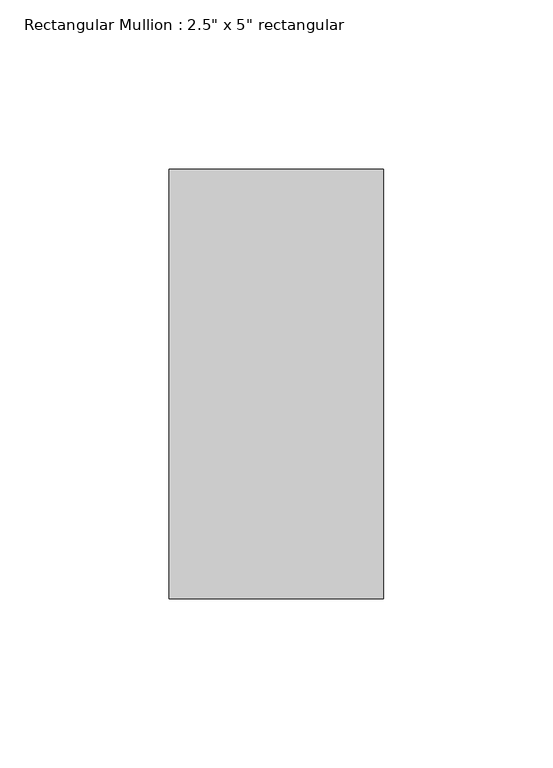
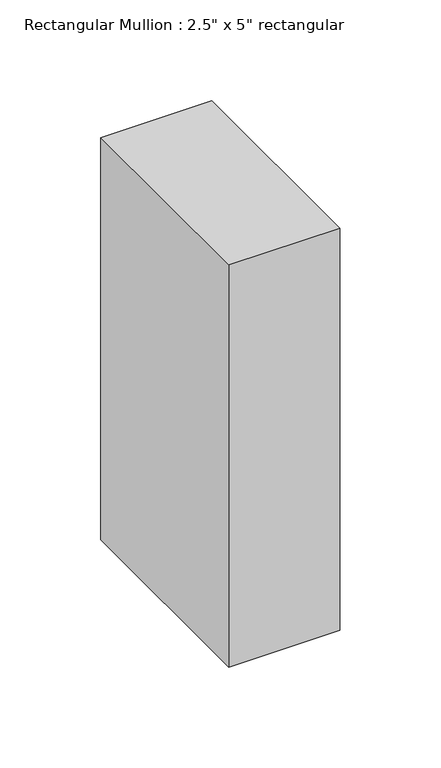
"""IFC4 building model written with IfcOpenShell, lengths in millimetres: member geometry."""

from ifc_helpers import new_model, si_unit, frame, origin, place, context, project, spatial, polyline, outline, extrude, source, transform, mapped, element, save


def member_6cb0a186(model_context):
    return source(origin(), model_context, "Body", "SweptSolid", [
        extrude(outline(polyline([(31.75, 63.5), (31.75, -63.5), (-31.75, -63.5), (-31.75, 63.5), (31.75, 63.5)])), frame((0.0, 0.0, -243.6224727), z_axis=(0.0, 0.0, 1.0), x_axis=(1.0, 0.0, 0.0)), (0.0, 0.0, 1.0), 243.6224727),
    ])


if __name__ == "__main__":
    model = new_model("IFC4")
    model_context = context("Model", 3, world=origin())
    ifc_project = project(units=[si_unit("LENGTHUNIT", "METRE", prefix="MILLI")], contexts=[model_context])
    site = spatial("IfcSite", under=ifc_project)
    building = spatial("IfcBuilding", under=site)
    placement = place(None, origin())
    member_shape = member_6cb0a186(model_context)
    element("IfcMember", 1, ObjectType="Rectangular Mullion : 2.5\" x 5\" rectangular", at=placement, inside=building, context=model_context, shape_type="MappedRepresentation", body=[
        mapped(member_shape, transform((0.0, 0.0, 0.0), x_axis=(1.0, 0.0, 0.0), y_axis=(0.0, 1.0, 0.0), z_axis=(0.0, 0.0, 1.0))),
    ])
    save(model, "model.ifc")
